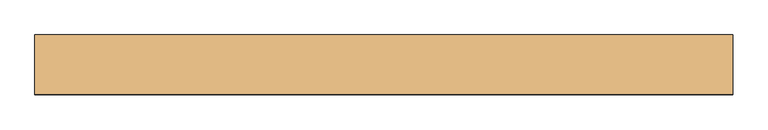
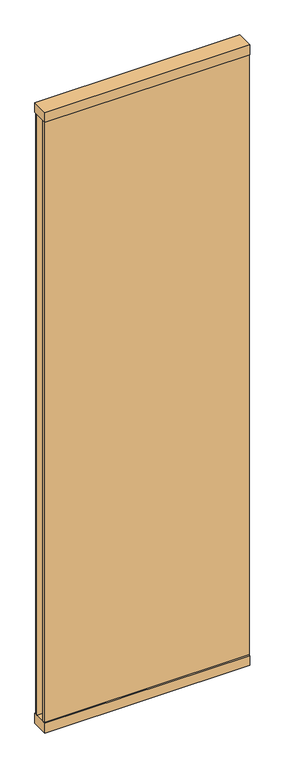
"""IFC4 building model written with IfcOpenShell, lengths in millimetres: door geometry, Mobiliário_Mobiliário de Escritório_Painel Vidro Duplo - DVDT, DVDL e DVXL (Complementar)_Marelli : DV1DT - 10mm + 10mm - Temperado."""

from ifc_helpers import new_model, si_unit, frame, origin, origin_with_axes, place, context, project, spatial, polyline, outline, extrude, source, transform, mapped, element, save


def door_c7f4f2b3(model_context):
    return source(origin(), model_context, "Body", "SweptSolid", [
        extrude(outline(polyline([(500.0, 42.5), (500.0, -42.5), (-500.0, -42.5), (-500.0, 42.5), (500.0, 42.5)])), origin_with_axes(), (0.0, 0.0, 1.0), 50.0),
        extrude(outline(polyline([(500.0, 42.5), (500.0, -42.5), (-500.0, -42.5), (-500.0, 42.5), (500.0, 42.5)])), frame((0.0, 0.0, 3150.0), z_axis=(0.0, 0.0, 1.0), x_axis=(1.0, 0.0, 0.0)), (0.0, 0.0, 1.0), 50.0),
        extrude(outline(polyline([(500.0, 35.1), (500.0, 25.1), (-500.0, 25.1), (-500.0, 35.1), (500.0, 35.1)])), frame((0.0, 0.0, 50.0), z_axis=(0.0, 0.0, 1.0), x_axis=(1.0, 0.0, 0.0)), (0.0, 0.0, 1.0), 3100.0),
        extrude(outline(polyline([(500.0, -35.1), (-500.0, -35.1), (-500.0, -25.1), (500.0, -25.1), (500.0, -35.1)])), frame((0.0, 0.0, 50.0), z_axis=(0.0, 0.0, 1.0), x_axis=(1.0, 0.0, 0.0)), (0.0, 0.0, 1.0), 3100.0),
    ])


if __name__ == "__main__":
    model = new_model("IFC4")
    model_context = context("Model", 3, world=origin())
    ifc_project = project(units=[si_unit("LENGTHUNIT", "METRE", prefix="MILLI")], contexts=[model_context])
    site = spatial("IfcSite", under=ifc_project)
    building = spatial("IfcBuilding", under=site)
    placement = place(None, origin())
    door_shape = door_c7f4f2b3(model_context)
    element("IfcDoor", 1, ObjectType="Mobiliário_Mobiliário de Escritório_Painel Vidro Duplo - DVDT, DVDL e DVXL (Complementar)_Marelli : DV1DT - 10mm + 10mm - Temperado", at=placement, inside=building, context=model_context, shape_type="MappedRepresentation", body=[
        mapped(door_shape, transform((0.0, 0.0, 0.0), x_axis=(1.0, 0.0, 0.0), y_axis=(0.0, 1.0, 0.0), z_axis=(0.0, 0.0, 1.0))),
    ])
    save(model, "model.ifc")
